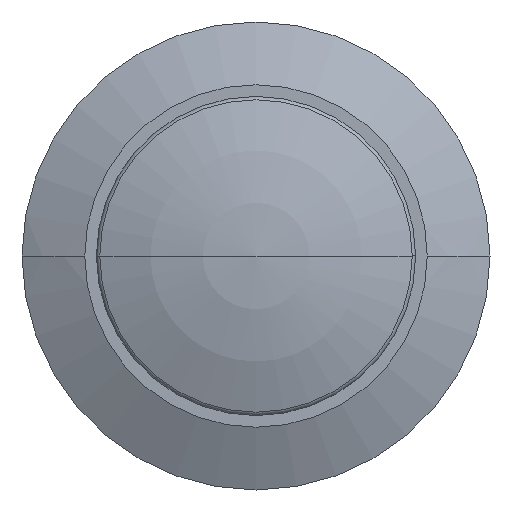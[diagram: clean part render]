
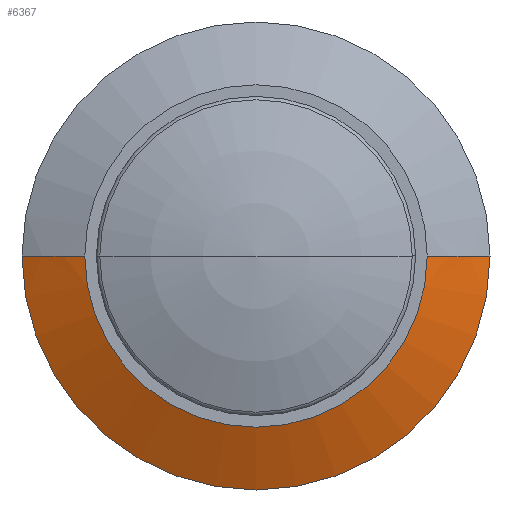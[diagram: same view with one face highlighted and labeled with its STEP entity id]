
A CAD part, left-side view. The second image highlights one B-rep face of the part: STEP entity #6367.
In plain terms, the highlighted spherical face has radius 23 mm.
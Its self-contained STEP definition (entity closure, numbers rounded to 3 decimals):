
#2638=CARTESIAN_POINT('',(3.965,0.,0.));
#2639=DIRECTION('',(0.,0.,1.));
#2640=DIRECTION('',(-0.937,-0.35,0.));
#2641=AXIS2_PLACEMENT_3D('',#2638,#2639,#2640);
#2643=CARTESIAN_POINT('',(3.965,0.,0.));
#2644=DIRECTION('',(0.,0.,-1.));
#2645=DIRECTION('',(-0.937,0.35,0.));
#2646=AXIS2_PLACEMENT_3D('',#2643,#2644,#2645);
#2648=CARTESIAN_POINT('',(-17.58,0.,0.));
#2649=DIRECTION('',(1.,0.,0.));
#2650=DIRECTION('',(0.,-1.,0.));
#2651=AXIS2_PLACEMENT_3D('',#2648,#2649,#2650);
#2671=CARTESIAN_POINT('',(-16.234,0.,0.));
#2672=DIRECTION('',(1.,0.,0.));
#2673=DIRECTION('',(0.,-1.,0.));
#2674=AXIS2_PLACEMENT_3D('',#2671,#2672,#2673);
#6184=CARTESIAN_POINT('',(-17.58,-8.05,0.));
#6185=CARTESIAN_POINT('',(-16.234,-11.,0.));
#6186=VERTEX_POINT('',#6184);
#6187=VERTEX_POINT('',#6185);
#6190=CARTESIAN_POINT('',(-17.58,8.05,0.));
#6191=CARTESIAN_POINT('',(-16.234,11.,0.));
#6192=VERTEX_POINT('',#6190);
#6193=VERTEX_POINT('',#6191);
#6353=CARTESIAN_POINT('',(3.965,0.,0.));
#6354=DIRECTION('',(-1.,0.,0.));
#6355=DIRECTION('',(0.,1.,0.));
#6356=AXIS2_PLACEMENT_3D('',#6353,#6354,#6355);
#6357=SPHERICAL_SURFACE('',#6356,23.);
#6359=ORIENTED_EDGE('',*,*,#6358,.T.);
#6361=ORIENTED_EDGE('',*,*,#6360,.T.);
#6363=ORIENTED_EDGE('',*,*,#6362,.F.);
#6364=ORIENTED_EDGE('',*,*,#6340,.F.);
#6365=EDGE_LOOP('',(#6359,#6361,#6363,#6364));
#6366=FACE_OUTER_BOUND('',#6365,.F.);
#2642=CIRCLE('',#2641,23.);
#2647=CIRCLE('',#2646,23.);
#2652=CIRCLE('',#2651,8.05);
#2675=CIRCLE('',#2674,11.);
#6340=EDGE_CURVE('',#6186,#6192,#2652,.T.);
#6358=EDGE_CURVE('',#6186,#6187,#2642,.T.);
#6360=EDGE_CURVE('',#6187,#6193,#2675,.T.);
#6362=EDGE_CURVE('',#6192,#6193,#2647,.T.);
#6367=ADVANCED_FACE('',(#6366),#6357,.T.);
